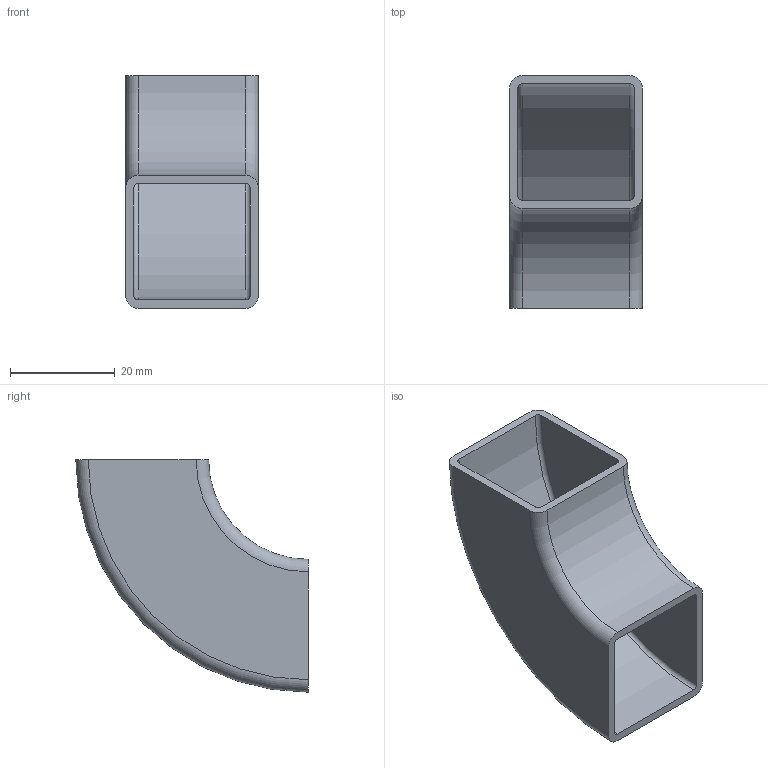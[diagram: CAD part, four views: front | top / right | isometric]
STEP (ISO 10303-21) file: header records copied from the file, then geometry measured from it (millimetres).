
FILE_DESCRIPTION((''),'2;1');
FILE_NAME('C:\Documents and Settings\bamfomg\Desktop\Owens corners\STP FILES\1x1x0.0625 - Steel.stp','2011-03-21T13:11:09',('bamfomg'),(''),'Autodesk Inventor 2011','Autodesk Inventor 2011','');
FILE_SCHEMA(('AUTOMOTIVE_DESIGN { 1 0 10303 214 1 1 1 1 }'));
Length unit declared in the file: inch
Products named in the file (1): Square Tube Corners
Bounding box: 25.4 x 44.45 x 44.45 mm (x, y, z)
Volume: 7325.5 mm3; surface area: 9522.7 mm2
Topology: 1 solids, 1 shells, 18 faces, 48 edges, 32 vertices
Faces by surface type: torus 8, plane 6, cylinder 4
Entity records: 616 total; most frequent: DIRECTION 118, CARTESIAN_POINT 99, ORIENTED_EDGE 96, AXIS2_PLACEMENT_3D 51, EDGE_CURVE 48, VERTEX_POINT 32, CIRCLE 32, EDGE_LOOP 20
